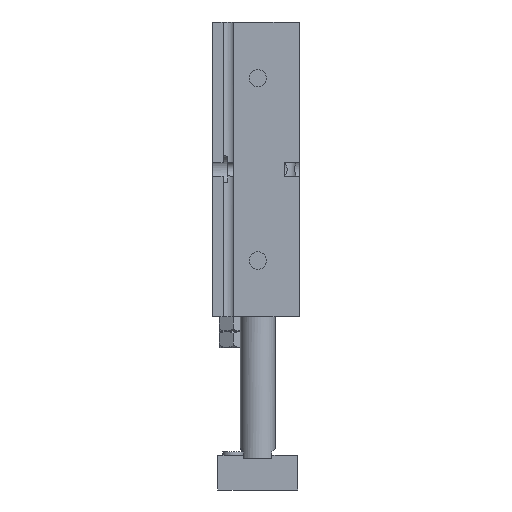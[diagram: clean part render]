
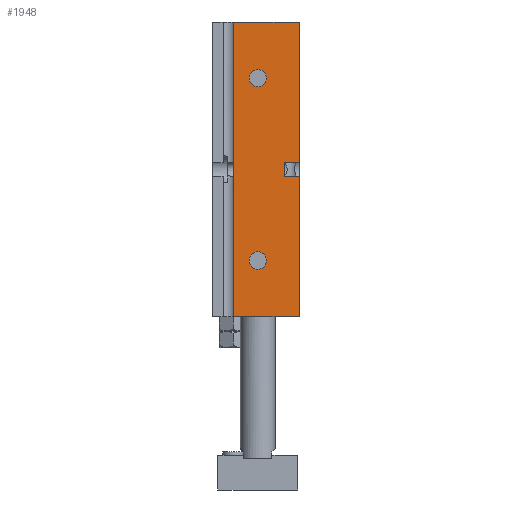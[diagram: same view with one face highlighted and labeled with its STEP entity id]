
A CAD part, front view. The second image highlights one B-rep face of the part: STEP entity #1948.
In plain terms, the highlighted planar face has unit normal (0, -1, 0).
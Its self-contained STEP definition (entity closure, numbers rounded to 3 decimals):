
#1505=CARTESIAN_POINT('',(-7.,-31.,135.0));
#1506=VERTEX_POINT('',#1505);
#1514=CARTESIAN_POINT('',(-7.,-31.,50.0));
#1515=VERTEX_POINT('',#1514);
#1522=CARTESIAN_POINT('',(-7.,-31.,135.0));
#1523=DIRECTION('',(0.0,0.0,-1.0));
#1524=VECTOR('',#1523,85.0);
#1525=LINE('',#1522,#1524);
#1526=EDGE_CURVE('',#1506,#1515,#1525,.T.);
#1677=CARTESIAN_POINT('',(12.,-31.,135.0));
#1678=VERTEX_POINT('',#1677);
#1679=CARTESIAN_POINT('',(12.,-31.,135.0));
#1680=DIRECTION('',(-1.0,0.0,0.0));
#1681=VECTOR('',#1680,19.);
#1682=LINE('',#1679,#1681);
#1683=EDGE_CURVE('',#1678,#1506,#1682,.T.);
#1871=CARTESIAN_POINT('',(12.,-31.,50.0));
#1872=DIRECTION('',(0.0,-1.0,0.0));
#1873=DIRECTION('',(0.0,0.0,-1.0));
#1874=AXIS2_PLACEMENT_3D('',#1871,#1872,#1873);
#1875=PLANE('',#1874);
#1876=ORIENTED_EDGE('',*,*,#1526,.T.);
#1877=CARTESIAN_POINT('',(12.,-31.,50.0));
#1878=VERTEX_POINT('',#1877);
#1879=CARTESIAN_POINT('',(12.,-31.,50.0));
#1880=DIRECTION('',(-1.0,0.0,0.0));
#1881=VECTOR('',#1880,19.);
#1882=LINE('',#1879,#1881);
#1883=EDGE_CURVE('',#1878,#1515,#1882,.T.);
#1884=ORIENTED_EDGE('',*,*,#1883,.F.);
#1885=CARTESIAN_POINT('',(12.,-31.,90.564));
#1886=VERTEX_POINT('',#1885);
#1887=CARTESIAN_POINT('',(12.,-31.,50.0));
#1888=DIRECTION('',(0.0,0.0,1.0));
#1889=VECTOR('',#1888,40.564);
#1890=LINE('',#1887,#1889);
#1891=EDGE_CURVE('',#1878,#1886,#1890,.T.);
#1892=ORIENTED_EDGE('',*,*,#1891,.T.);
#1893=CARTESIAN_POINT('',(7.6,-31.,90.564));
#1894=VERTEX_POINT('',#1893);
#1895=CARTESIAN_POINT('',(12.,-31.,90.564));
#1896=DIRECTION('',(-1.0,0.0,0.0));
#1897=VECTOR('',#1896,4.4);
#1898=LINE('',#1895,#1897);
#1899=EDGE_CURVE('',#1886,#1894,#1898,.T.);
#1900=ORIENTED_EDGE('',*,*,#1899,.T.);
#1901=CARTESIAN_POINT('',(7.6,-31.,94.436));
#1902=VERTEX_POINT('',#1901);
#1903=CARTESIAN_POINT('',(7.6,-31.,90.564));
#1904=DIRECTION('',(0.0,0.0,1.0));
#1905=VECTOR('',#1904,3.873);
#1906=LINE('',#1903,#1905);
#1907=EDGE_CURVE('',#1894,#1902,#1906,.T.);
#1908=ORIENTED_EDGE('',*,*,#1907,.T.);
#1909=CARTESIAN_POINT('',(12.,-31.,94.436));
#1910=VERTEX_POINT('',#1909);
#1911=CARTESIAN_POINT('',(7.6,-31.,94.436));
#1912=DIRECTION('',(1.0,0.0,0.0));
#1913=VECTOR('',#1912,4.4);
#1914=LINE('',#1911,#1913);
#1915=EDGE_CURVE('',#1902,#1910,#1914,.T.);
#1916=ORIENTED_EDGE('',*,*,#1915,.T.);
#1917=CARTESIAN_POINT('',(12.,-31.,94.436));
#1918=DIRECTION('',(0.0,0.0,1.0));
#1919=VECTOR('',#1918,40.564);
#1920=LINE('',#1917,#1919);
#1921=EDGE_CURVE('',#1910,#1678,#1920,.T.);
#1922=ORIENTED_EDGE('',*,*,#1921,.T.);
#1923=ORIENTED_EDGE('',*,*,#1683,.T.);
#1924=EDGE_LOOP('',(#1876,#1884,#1892,#1900,#1908,#1916,#1922,#1923));
#1925=FACE_OUTER_BOUND('',#1924,.T.);
#1926=CARTESIAN_POINT('',(2.5,-31.,118.8));
#1927=VERTEX_POINT('',#1926);
#1928=CARTESIAN_POINT('',(0.0,-31.,118.8));
#1929=DIRECTION('',(0.0,1.0,0.0));
#1930=DIRECTION('',(-1.0,0.0,0.0));
#1931=AXIS2_PLACEMENT_3D('',#1928,#1929,#1930);
#1932=CIRCLE('',#1931,2.5);
#1933=EDGE_CURVE('',#1927,#1927,#1932,.T.);
#1934=ORIENTED_EDGE('',*,*,#1933,.T.);
#1935=EDGE_LOOP('',(#1934));
#1936=FACE_BOUND('',#1935,.T.);
#1937=CARTESIAN_POINT('',(2.5,-31.,66.2));
#1938=VERTEX_POINT('',#1937);
#1939=CARTESIAN_POINT('',(0.0,-31.,66.2));
#1940=DIRECTION('',(0.0,1.0,0.0));
#1941=DIRECTION('',(-1.0,0.0,0.0));
#1942=AXIS2_PLACEMENT_3D('',#1939,#1940,#1941);
#1943=CIRCLE('',#1942,2.5);
#1944=EDGE_CURVE('',#1938,#1938,#1943,.T.);
#1945=ORIENTED_EDGE('',*,*,#1944,.T.);
#1946=EDGE_LOOP('',(#1945));
#1947=FACE_BOUND('',#1946,.T.);
#1948=ADVANCED_FACE('',(#1925,#1936,#1947),#1875,.T.);
